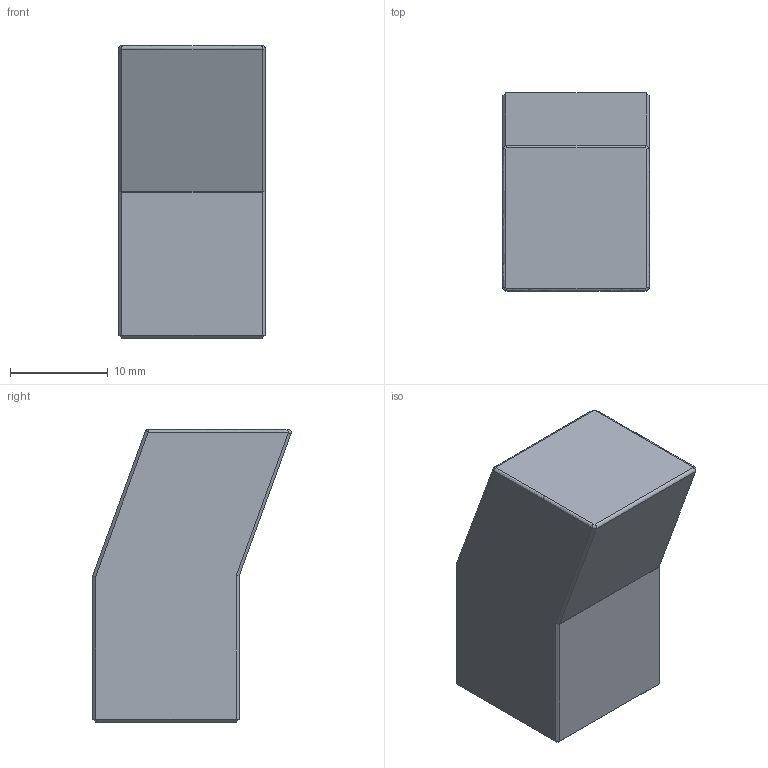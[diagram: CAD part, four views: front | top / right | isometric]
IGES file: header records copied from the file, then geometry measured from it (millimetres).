
Global section: file name: E:\UnigraphicsGraphicData\MISUMI_MOLD-PARTS\NX\3d_ance15_b15_l30_k20_00927_r00.igs; native system: NX V5.0; preprocessor: UGS NX IGES V5.0; author: MISUMI; date: 20101115.182447; units: millimetre
Bounding box: 15 x 20.33 x 30 mm (x, y, z)
Surface area: 2665 mm2 (no closed solid volume)
Topology: 0 solids, 0 shells, 37 faces, 207 edges, 206 vertices
Faces by surface type: bspline 37
